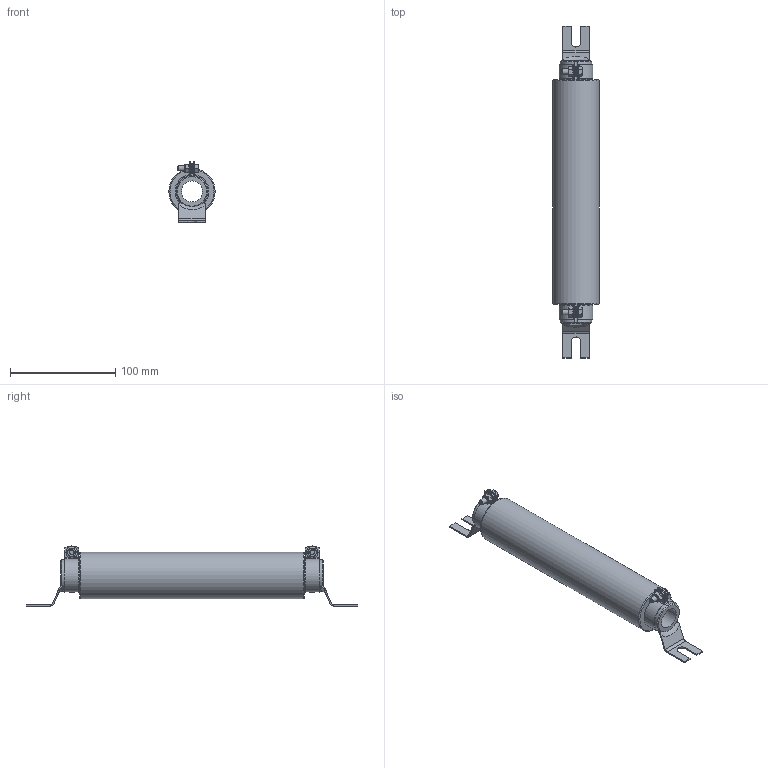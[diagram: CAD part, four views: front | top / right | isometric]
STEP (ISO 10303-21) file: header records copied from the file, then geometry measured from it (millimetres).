
FILE_DESCRIPTION(/* description */ (' '),/* implementation_level */ '2;1');
FILE_NAME(/* name */ 'C42TF',/* time_stamp */ '2018-01-10T11:36:10+01:00',/* author */ ('VISHAY MCB INDUSTRIE'),/* organization */ (' '),/* preprocessor_version */ 'ST-DEVELOPER v16.7',/* originating_system */ 'DEX',/* authorisation */ $);
FILE_SCHEMA (('AUTOMOTIVE_DESIGN {1 0 10303 214 3 1 1}'));
Length unit declared in the file: millimetre
Products named in the file (7): P500-4395; 745550; 211008; 066 email; Rondelle plate M5 ep2 nickelé; Ecrou HM5 embase; Vis HM 5x16 (CE)
Assembly tree (12 placements, depth 2):
  P500-4395
    745550
    211008  x2
    066 email
    Rondelle plate M5 ep2 nickelé  x4
    Ecrou HM5 embase  x2
    Vis HM 5x16 (CE)  x2
Bounding box: 44 x 316 x 57.11 mm (x, y, z)
Volume: 279158.9 mm3; surface area: 123967.6 mm2
Topology: 12 solids, 12 shells, 228 faces, 585 edges, 379 vertices
Faces by surface type: plane 104, cylinder 70, cone 32, torus 14, bspline 8
Full cylindrical faces by diameter (mm): 4 x2, 4.2 x2, 4.8 x2, 5 x2, 5.3 x4, 5.7 x4, 6.8 x2, 7.2 x2, 10 x4, 11 x2, 20 x1, 30 x2, 42 x2, 44 x1
Entity records: 4180 total; most frequent: CARTESIAN_POINT 913, DIRECTION 578, ORIENTED_EDGE 548, EDGE_CURVE 274, AXIS2_PLACEMENT_3D 240, VERTEX_POINT 192, EDGE_LOOP 174, FACE_BOUND 174
